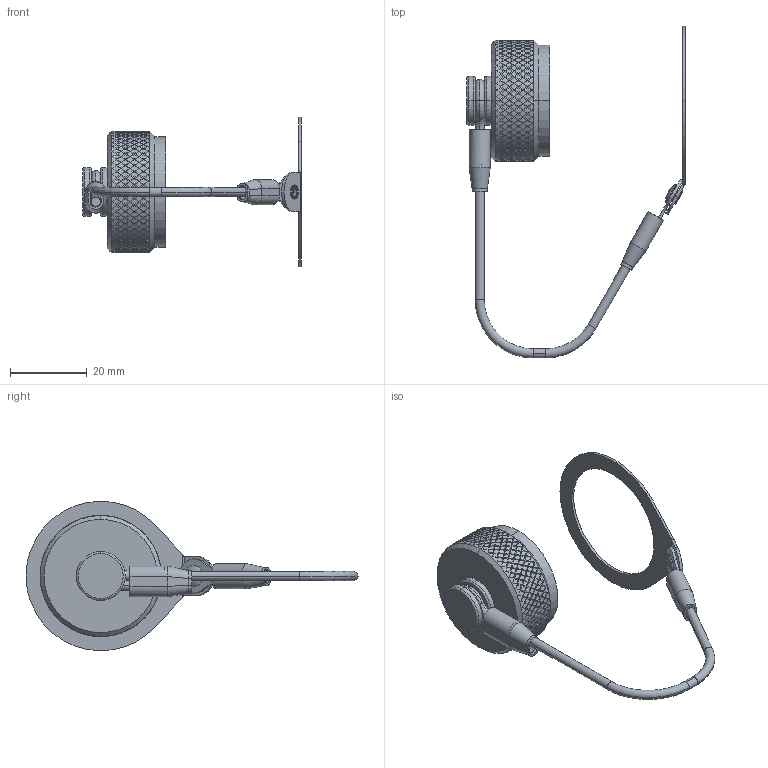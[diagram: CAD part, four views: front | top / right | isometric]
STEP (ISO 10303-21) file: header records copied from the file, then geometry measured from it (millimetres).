
FILE_DESCRIPTION (( 'STEP AP214' ), '1' );
FILE_NAME ('Q38DC-RJX-15-R0.STEP', '2026-04-22T20:26:16', ( '' ), ( '' ), 'SwSTEP 2.0', 'SolidWorks 2024', '' );
FILE_SCHEMA (( 'AUTOMOTIVE_DESIGN' ));
Length unit declared in the file: inch
Products named in the file (11): LN-06-07-13_Q38DC-RJX-15; HEAT SHRINK_HS-125-625S; SW-XRXX_SW-BR15; SW-348; SW-349_SW-349; HEAT SHRINK_HS-250X625_SW-348; SW-347; Q38DC-RJX-15-R0; Q38-XX29-P_15R; Lanyard Assembly Q38_Q38DC-RJX-15; Q38-XX48-X_Q38-1548-X
Assembly tree (10 placements, depth 3):
  Q38DC-RJX-15-R0
    Q38-XX48-X_Q38-1548-X
    Lanyard Assembly Q38_Q38DC-RJX-15
      LN-06-07-13_Q38DC-RJX-15
      SW-348
      HEAT SHRINK_HS-250X625_SW-348
      SW-347
      HEAT SHRINK_HS-125-625S
      SW-349_SW-349
      SW-XRXX_SW-BR15
    Q38-XX29-P_15R
Bounding box: 56.9 x 86.42 x 38.9 mm (x, y, z)
Volume: 7639.5 mm3; surface area: 9641.2 mm2
Topology: 9 solids, 9 shells, 2474 faces, 6101 edges, 4040 vertices
Faces by surface type: plane 1875, cylinder 549, torus 26, bspline 16, cone 6, sphere 2
Entity records: 73657 total; most frequent: CARTESIAN_POINT 25414, ORIENTED_EDGE 12202, DIRECTION 7578, EDGE_CURVE 6101, VERTEX_POINT 4040, EDGE_LOOP 2883, AXIS2_PLACEMENT_3D 2796, ADVANCED_FACE 2474
